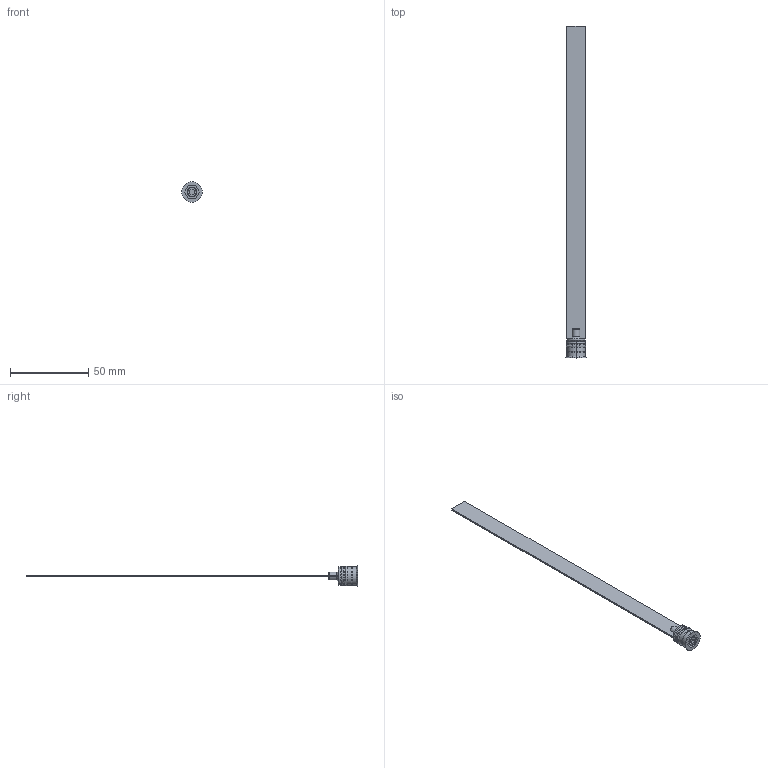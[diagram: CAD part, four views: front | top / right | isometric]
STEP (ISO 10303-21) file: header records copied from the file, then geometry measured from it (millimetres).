
FILE_DESCRIPTION (( 'STEP AP203' ), '1' );
FILE_NAME ('RL-12Fx200.STEP', '2015-12-02T10:16:18', ( 'Balzi' ), ( '' ), 'SwSTEP 2.0', 'SolidWorks 2015', '' );
FILE_SCHEMA (( 'CONFIG_CONTROL_DESIGN' ));
Length unit declared in the file: millimetre
Products named in the file (1): RL-12Fx200
Bounding box: 13.3 x 212.5 x 13.3 mm (x, y, z)
Volume: 3723.4 mm3; surface area: 6195.9 mm2
Topology: 1 solids, 1 shells, 72 faces, 171 edges, 105 vertices
Faces by surface type: plane 30, cylinder 17, cone 17, torus 8
Entity records: 2165 total; most frequent: CARTESIAN_POINT 399, DIRECTION 370, ORIENTED_EDGE 342, EDGE_CURVE 171, AXIS2_PLACEMENT_3D 140, VERTEX_POINT 105, LINE 90, VECTOR 90
